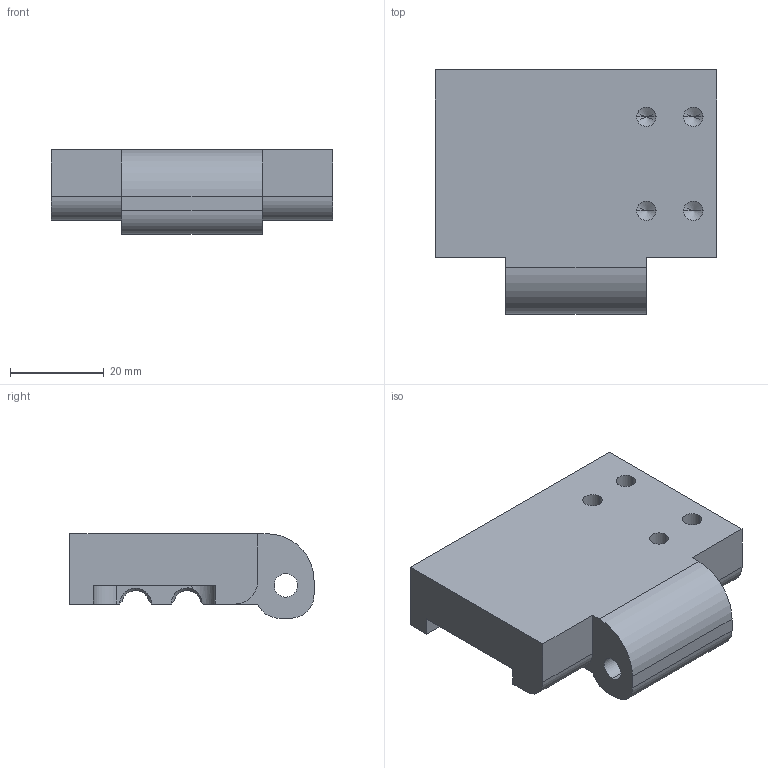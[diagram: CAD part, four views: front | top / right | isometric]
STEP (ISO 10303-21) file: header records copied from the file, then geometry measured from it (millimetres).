
FILE_DESCRIPTION (( 'STEP AP214' ), '1' );
FILE_NAME ('GZ47B.07_V1上压块-02.STEP', '2021-07-01T00:57:31', ( '微软中国' ), ( 'Microsoft' ), 'SwSTEP 2.0', 'SolidWorks 2017', '' );
FILE_SCHEMA (( 'AUTOMOTIVE_DESIGN' ));
Length unit declared in the file: millimetre
Products named in the file (1): GZ47B.07_V1奻揤輸-02
Bounding box: 60 x 52 x 18 mm (x, y, z)
Volume: 35256.2 mm3; surface area: 10447.3 mm2
Topology: 1 solids, 1 shells, 65 faces, 170 edges, 103 vertices
Faces by surface type: cylinder 24, plane 22, cone 18, bspline 1
Entity records: 2270 total; most frequent: CARTESIAN_POINT 560, DIRECTION 333, ORIENTED_EDGE 320, EDGE_CURVE 160, AXIS2_PLACEMENT_3D 122, VERTEX_POINT 103, VECTOR 89, LINE 89
